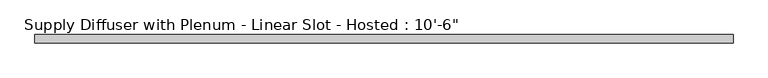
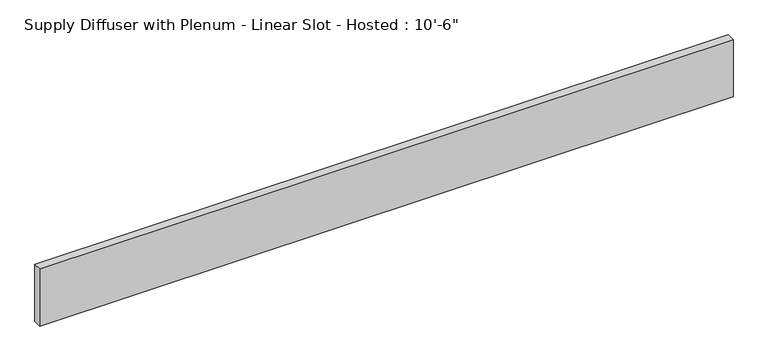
"""IFC4 building model written with IfcOpenShell, lengths in millimetres: air terminal geometry."""

from ifc_helpers import new_model, si_unit, frame, origin, place, context, project, spatial, polyline, outline, extrude, source, transform, mapped, element, save


def air_terminal_c1c45ee0(model_context):
    return source(origin(), model_context, "Body", "SweptSolid", [
        extrude(outline(polyline([(1600.2, 19.05), (1600.2, -19.05), (-1600.2, -19.05), (-1600.2, 19.05), (1600.2, 19.05)])), frame((0.0, 0.0, -279.4), z_axis=(0.0, 0.0, 1.0), x_axis=(1.0, 0.0, 0.0)), (0.0, 0.0, 1.0), 279.4),
    ])


if __name__ == "__main__":
    model = new_model("IFC4")
    model_context = context("Model", 3, world=origin())
    ifc_project = project(units=[si_unit("LENGTHUNIT", "METRE", prefix="MILLI")], contexts=[model_context])
    site = spatial("IfcSite", under=ifc_project)
    building = spatial("IfcBuilding", under=site)
    placement = place(None, origin())
    air_terminal_shape = air_terminal_c1c45ee0(model_context)
    element("IfcAirTerminal", 1, ObjectType="Supply Diffuser with Plenum - Linear Slot - Hosted : 10'-6\"", at=placement, inside=building, context=model_context, shape_type="MappedRepresentation", body=[
        mapped(air_terminal_shape, transform((0.0, 0.0, 0.0), x_axis=(1.0, 0.0, 0.0), y_axis=(0.0, 1.0, 0.0), z_axis=(0.0, 0.0, 1.0))),
    ])
    save(model, "model.ifc")
